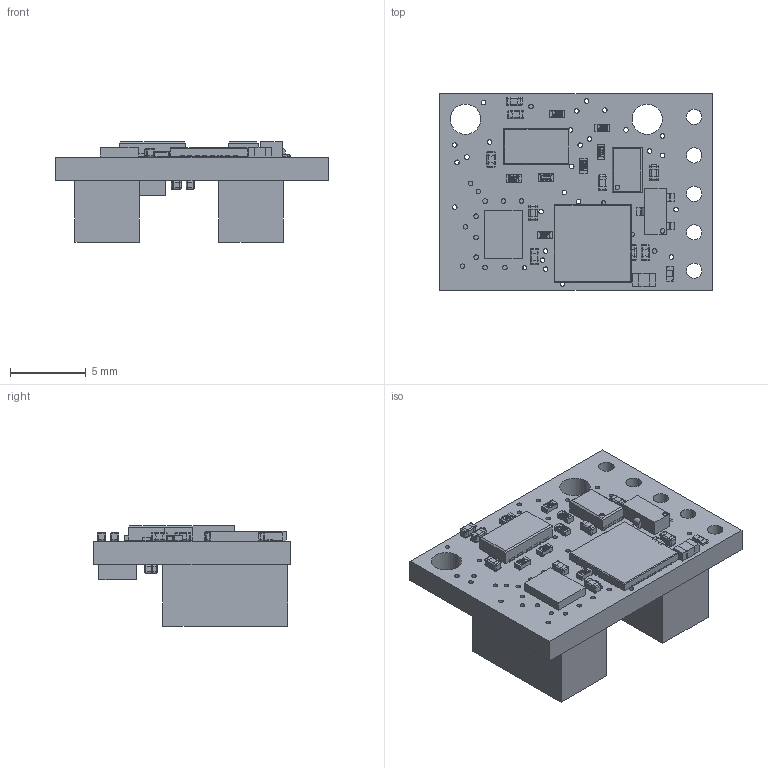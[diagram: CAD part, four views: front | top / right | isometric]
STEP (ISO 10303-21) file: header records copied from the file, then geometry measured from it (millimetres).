
FILE_DESCRIPTION(/* description */ (''),/* implementation_level */ '2;1');
FILE_NAME(/* name */ 'C:/Users/priba/Downloads/mrm-lid-can-b.step',/* time_stamp */ '2020-09-13T09:34:21+02:00',/* author */ (''),/* organization */ (''),/* preprocessor_version */ 'ST-DEVELOPER v18.1',/* originating_system */ 'Autodesk Translation Framework v9.3.0.1241',/* authorisation */ '');
FILE_SCHEMA (('AUTOMOTIVE_DESIGN { 1 0 10303 214 3 1 1 }'));
Length unit declared in the file: millimetre
Products named in the file (15): mrm-lid-can-b; PCB Component; Board; MICROCHIP_MCP1725T-ADJE/MC; VISHAY_SI2347DS-T1-GE3; STM32F042G6U6; SML-P11MTT86R; 1.5kOhm/0603; 26pF/5V; 1.5kOhm; STM_VL53LX; JST_BM04B-GHK-TBT; MICROCHIP_ATA6561-GBQW-N; CONN_051X05_PINLESS; EPSON_TSX-3225
Assembly tree (34 placements, depth 3):
  mrm-lid-can-b
    PCB Component
      Board
      MICROCHIP_MCP1725T-ADJE/MC
      VISHAY_SI2347DS-T1-GE3
      STM32F042G6U6
      SML-P11MTT86R
      1.5kOhm/0603
      26pF/5V  x14
      1.5kOhm  x7
      STM_VL53LX
      JST_BM04B-GHK-TBT  x2
      MICROCHIP_ATA6561-GBQW-N
      CONN_051X05_PINLESS
      EPSON_TSX-3225
Bounding box: 18 x 13 x 6.62 mm (x, y, z)
Volume: 685.1 mm3; surface area: 1271.9 mm2
Topology: 65 solids, 65 shells, 2148 faces, 5857 edges, 3753 vertices
Faces by surface type: plane 1162, cylinder 706, sphere 248, bspline 32
Full cylindrical faces by diameter (mm): 0.3 x51, 1.016 x5, 2 x2
Entity records: 33326 total; most frequent: CARTESIAN_POINT 7517, ORIENTED_EDGE 5142, DIRECTION 4768, EDGE_CURVE 2571, LINE 1850, VECTOR 1850, VERTEX_POINT 1667, AXIS2_PLACEMENT_3D 1459
